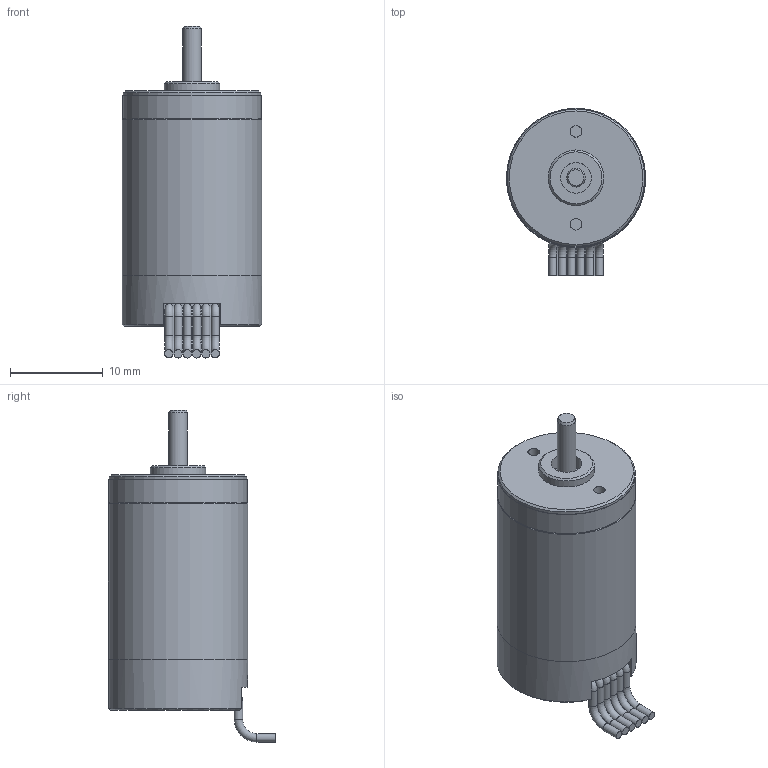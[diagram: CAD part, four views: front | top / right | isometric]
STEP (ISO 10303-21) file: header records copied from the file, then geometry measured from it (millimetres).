
FILE_DESCRIPTION(/* description */ (''),/* implementation_level */ '2;1');
FILE_NAME(/* name */ '1525U_BRC.stp',/* time_stamp */ '2013-10-21T14:51:58+02:00',/* author */ ('DR. FRITZ FAULHABER GmbH & Co. KG'),/* organization */ ('DR. FRITZ FAULHABER GmbH & Co. KG'),/* preprocessor_version */ 'ST-DEVELOPER v11',/* originating_system */ 'SIEMENS PLM Software NX 7.5',/* authorisation */ '');
FILE_SCHEMA (('AUTOMOTIVE_DESIGN { 1 0 10303 214 1 1 1 1 }'));
Length unit declared in the file: millimetre
Products named in the file (1): Alle
Bounding box: 15 x 18 x 35.77 mm (x, y, z)
Volume: 4518.7 mm3; surface area: 1788.8 mm2
Topology: 1 solids, 1 shells, 113 faces, 245 edges, 142 vertices
Faces by surface type: cylinder 52, plane 36, torus 20, cone 5
Full cylindrical faces by diameter (mm): 1.25 x2, 2 x1, 3.3 x1, 6 x1, 14.5 x1, 14.8 x1, 14.9 x1, 15 x2
Entity records: 4087 total; most frequent: CARTESIAN_POINT 837, DIRECTION 550, ORIENTED_EDGE 458, EDGE_CURVE 229, AXIS2_PLACEMENT_3D 223, VERTEX_POINT 140, EDGE_LOOP 135, PRESENTATION_STYLE_ASSIGNMENT 114
